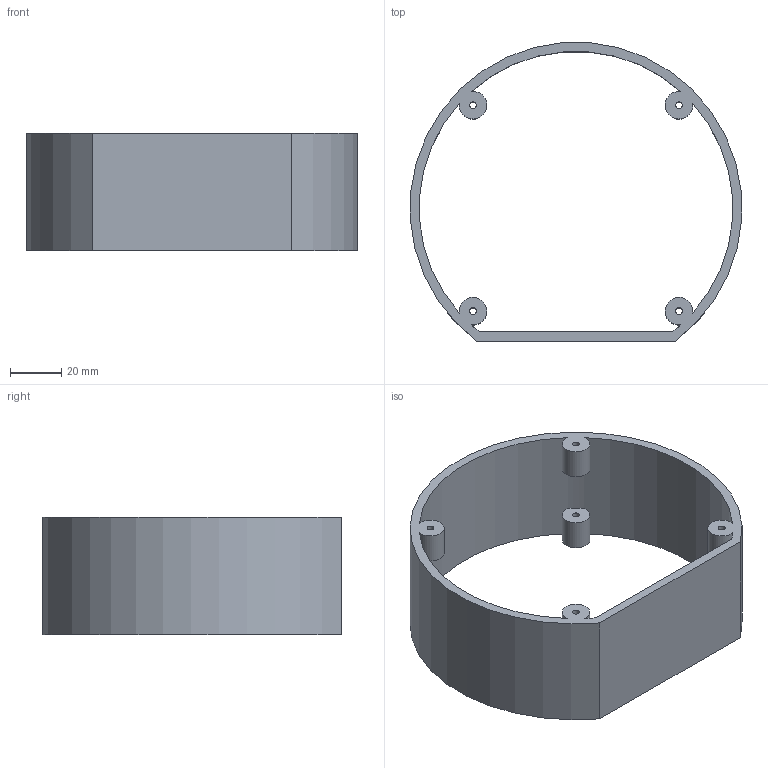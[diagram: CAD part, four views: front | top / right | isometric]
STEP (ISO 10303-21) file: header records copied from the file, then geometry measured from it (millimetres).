
FILE_DESCRIPTION(('Open CASCADE Model'),'2;1');
FILE_NAME('Open CASCADE Shape Model','2026-10-20T19:06:09',('Author'),( 'Open CASCADE'),'Open CASCADE STEP processor 7.9','Open CASCADE 7.9' ,'Unknown');
FILE_SCHEMA(('AUTOMOTIVE_DESIGN { 1 0 10303 214 1 1 1 1 }'));
Length unit declared in the file: millimetre
Products named in the file (1): Open CASCADE STEP translator 7.9 2
Bounding box: 129.72 x 116.76 x 46 mm (x, y, z)
Volume: 72647.9 mm3; surface area: 42892.4 mm2
Topology: 1 solids, 1 shells, 30 faces, 84 edges, 56 vertices
Faces by surface type: cylinder 18, plane 12
Full cylindrical faces by diameter (mm): 2.65 x8
Entity records: 2211 total; most frequent: CARTESIAN_POINT 617, DIRECTION 283, ORIENTED_EDGE 168, PCURVE 168, DEFINITIONAL_REPRESENTATION 168, LINE 104, VECTOR 104, EDGE_CURVE 84
